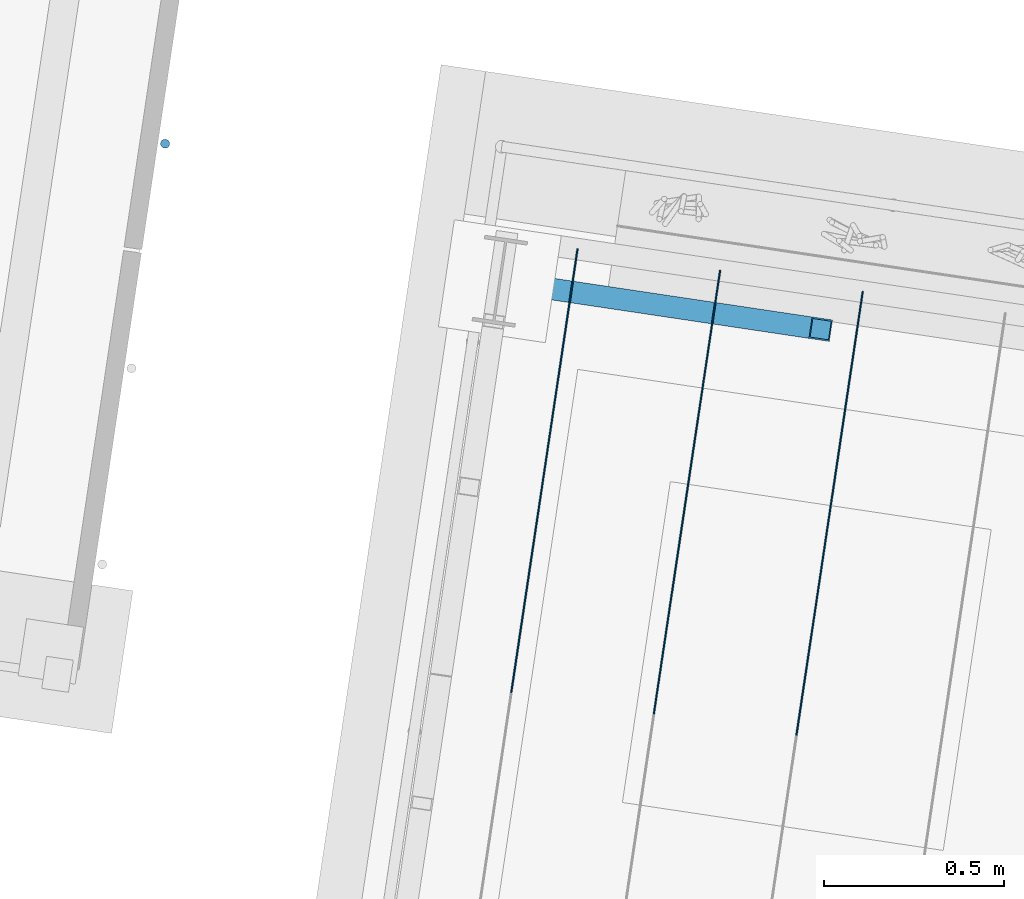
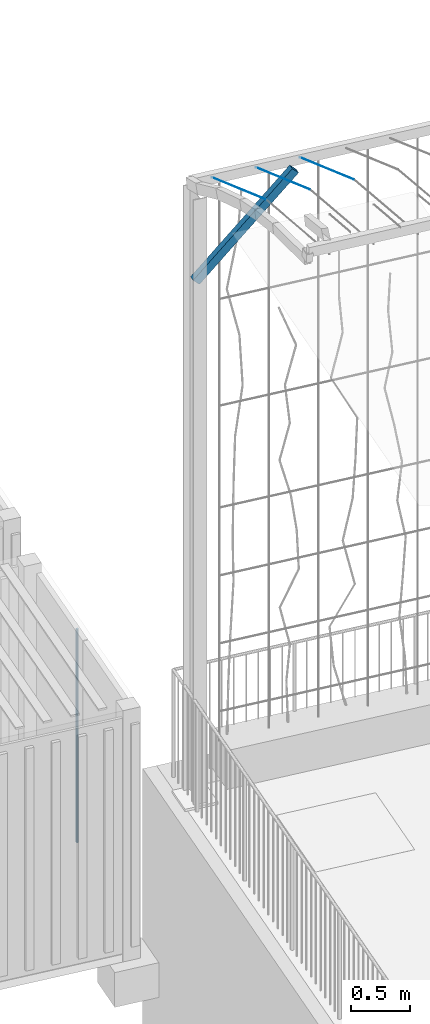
# One storey, part 27 of 142: 5 members, 2 elements without a shape of their own.
"""IFC4 building model written with IfcOpenShell, lengths in metres."""

from ifc_helpers import new_model, si_unit, direction, frame, origin_with_axes, place, context, subcontext, project, spatial, hollow_rectangle, circle, extrude, material, material_profile, profile_set, profile_usage, type_object, element, aggregate, save


model = new_model("IFC4")

# Units and contexts
model_context = context("Model", 3, precision=1e-05, world=origin_with_axes(), true_north=direction((0.0, 1.0)))
body_context = subcontext(model_context, "Body", "Model", "MODEL_VIEW")
ifc_project = project(units=[si_unit("VOLUMEUNIT", "CUBIC_METRE"), si_unit("LENGTHUNIT", "METRE"), si_unit("AREAUNIT", "SQUARE_METRE")], contexts=[model_context])

# Site, building, storey
site_placement = place(None, origin_with_axes())
site = spatial("IfcSite", under=ifc_project, at=site_placement, Name="Lares · Rua das Mercês · artigo 4771")
building_placement = place(site_placement, frame((12.0, 10.2, 13.9), z_axis=(0.0, 0.0, 1.0), x_axis=(0.989015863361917, -0.147809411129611, 0.0)))
building = spatial("IfcBuilding", under=site, at=building_placement, Name="Casa Sobreposta")
storey_placement = place(building_placement, origin_with_axes())
storey = spatial("IfcBuildingStorey", under=building, at=storey_placement, Name="00 · Habitação e estacionamento", Elevation=13.9)

# Assembly, members
assembly_1_placement = place(storey_placement, origin_with_axes())
assembly_1 = element("IfcElementAssembly", 1, at=assembly_1_placement, inside=storey, Name="Pérgola · prolongamento da estufa 6 m", ObjectType="PERGOLA_GREENHOUSE_EXTENSION", PredefinedType="USERDEFINED")
ifc_material_1 = material(Name="Aço pintado / Stahl lackiert", Category="steel")
ifc_material_profile_1 = material_profile(ifc_material_1, hollow_rectangle(XDim=0.06, YDim=0.08, WallThickness=0.004))
ifc_profile_set_1 = profile_set([ifc_material_profile_1], Name="RHS80x60x4")
ifc_profile_usage_1 = profile_usage(ifc_profile_set_1)
member_type_1 = type_object("IfcMemberType", Name="RHS80x60x4 / steel", PredefinedType="NOTDEFINED", material=ifc_profile_set_1)
member_1_placement = place(assembly_1_placement, frame((-6.0, 6.28, 5.3), z_axis=(0.699294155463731, 0.0, 0.714834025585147), x_axis=(0.0, -1.0, 0.0)))
member_1 = element("IfcMember", 2, at=member_1_placement, type_object=member_type_1, material=ifc_profile_usage_1, Name="Pérgola · escora alta", context=body_context, shape_type="SweptSolid", body=[
    extrude(hollow_rectangle(XDim=0.06, YDim=0.08, WallThickness=0.004), origin_with_axes(), (0.0, 0.0, 1.0), 1.28701204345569),
])
ifc_material_2 = material(Name="Aço galvanizado / Stahl verzinkt", Category="steel")
ifc_material_profile_2 = material_profile(ifc_material_2, circle(Radius=0.002))
ifc_profile_set_2 = profile_set([ifc_material_profile_2], Name="D0.004")
ifc_profile_usage_2 = profile_usage(ifc_profile_set_2)
member_type_2 = type_object("IfcMemberType", Name="D0.004 / galvanized", PredefinedType="NOTDEFINED", material=ifc_profile_set_2)
member_2_placement = place(assembly_1_placement, frame((-5.8, 5.15650506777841, 6.8157371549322), z_axis=(0.0, 0.905864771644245, -0.423567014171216), x_axis=(1.0, 0.0, 0.0)))
member_2 = element("IfcMember", 3, at=member_2_placement, type_object=member_type_2, material=ifc_profile_usage_2, Name="Pérgola · fio para trepadeiras", context=body_context, shape_type="SweptSolid", body=[
    extrude(circle(Radius=0.002), origin_with_axes(), (0.0, 0.0, 1.0), 1.3727158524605),
])
ifc_profile_usage_3 = profile_usage(ifc_profile_set_2)
member_3_placement = place(assembly_1_placement, frame((-5.4, 5.15650506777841, 6.8157371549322), z_axis=(0.0, 0.905864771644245, -0.423567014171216), x_axis=(1.0, 0.0, 0.0)))
member_3 = element("IfcMember", 4, at=member_3_placement, type_object=member_type_2, material=ifc_profile_usage_3, Name="Pérgola · fio para trepadeiras", context=body_context, shape_type="SweptSolid", body=[
    extrude(circle(Radius=0.002), origin_with_axes(), (0.0, 0.0, 1.0), 1.3727158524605),
])
ifc_profile_usage_4 = profile_usage(ifc_profile_set_2)
member_4_placement = place(assembly_1_placement, frame((-5.0, 5.15650506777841, 6.8157371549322), z_axis=(0.0, 0.905864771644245, -0.423567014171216), x_axis=(1.0, 0.0, 0.0)))
member_4 = element("IfcMember", 5, at=member_4_placement, type_object=member_type_2, material=ifc_profile_usage_4, Name="Pérgola · fio para trepadeiras", context=body_context, shape_type="SweptSolid", body=[
    extrude(circle(Radius=0.002), origin_with_axes(), (0.0, 0.0, 1.0), 1.3727158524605),
])
aggregate(assembly_1, [member_1, member_2, member_3, member_4])

# Assembly, member
assembly_2_placement = place(storey_placement, origin_with_axes())
assembly_2 = element("IfcElementAssembly", 6, at=assembly_2_placement, inside=storey, ObjectType="EXISTING_SHIPPING_CONTAINER", PredefinedType="USERDEFINED")
ifc_material_profile_3 = material_profile(ifc_material_2, circle(Radius=0.0125))
ifc_profile_set_3 = profile_set([ifc_material_profile_3], Name="D0.025")
ifc_profile_usage_5 = profile_usage(ifc_profile_set_3)
member_type_3 = type_object("IfcMemberType", Name="D0.025 / galvanized", PredefinedType="NOTDEFINED", material=ifc_profile_set_3)
member_5_placement = place(assembly_2_placement, frame((-6.975, 6.52, -0.394226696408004), z_axis=(0.0, 0.0, 1.0), x_axis=(1.0, 0.0, 0.0)))
member_5 = element("IfcMember", 7, at=member_5_placement, type_object=member_type_3, material=ifc_profile_usage_5, Name="Contentor · varão de fecho", context=body_context, shape_type="SweptSolid", body=[
    extrude(circle(Radius=0.0125), origin_with_axes(), (0.0, 0.0, 1.0), 2.2),
])
aggregate(assembly_2, [member_5])

save(model, "model.ifc")
